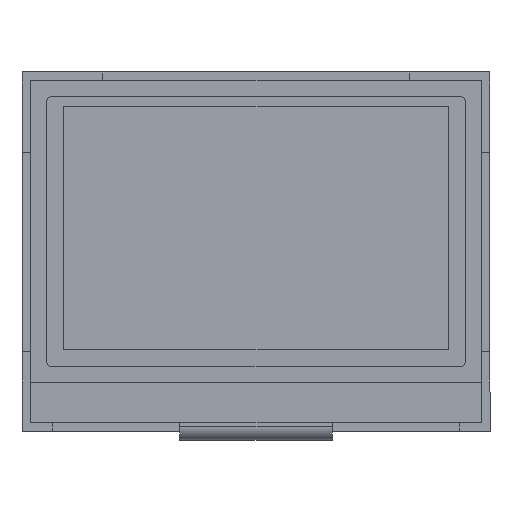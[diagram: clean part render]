
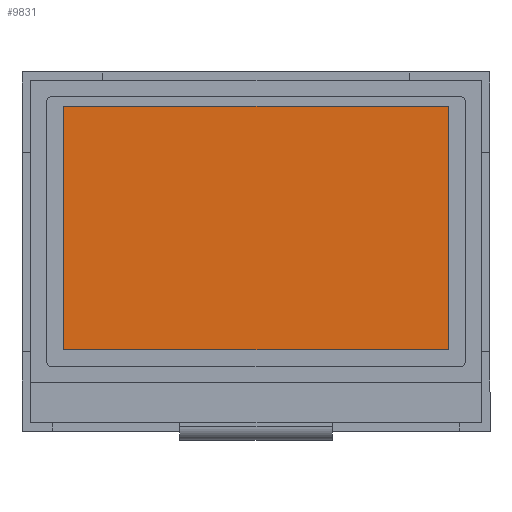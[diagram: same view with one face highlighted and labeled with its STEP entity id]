
A CAD part, top view. The second image highlights one B-rep face of the part: STEP entity #9831.
In plain terms, the highlighted planar face has unit normal (0, 0, 1).
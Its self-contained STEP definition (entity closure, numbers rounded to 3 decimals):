
#1709 = VERTEX_POINT ( 'NONE', #42082 ) ;
#3826 = ORIENTED_EDGE ( 'NONE', *, *, #83529, .F. ) ;
#9831 = ADVANCED_FACE ( 'NONE', ( #26886 ), #32574, .T. ) ;
#15062 = AXIS2_PLACEMENT_3D ( 'NONE', #76518, #68948, #61379 ) ;
#17717 = DIRECTION ( 'NONE',  ( 0., -1., 0. ) ) ;
#19580 = EDGE_CURVE ( 'NONE', #85081, #1709, #76768, .T. ) ;
#26821 = CARTESIAN_POINT ( 'NONE',  ( 23.88, -15.145, 1.9 ) ) ;
#26886 = FACE_OUTER_BOUND ( 'NONE', #30857, .T. ) ;
#26895 = CARTESIAN_POINT ( 'NONE',  ( -23.88, -15.145, 1.9 ) ) ;
#30539 = LINE ( 'NONE', #81096, #69254 ) ;
#30857 = EDGE_LOOP ( 'NONE', ( #3826, #37723, #47821, #65262 ) ) ;
#32574 = PLANE ( 'NONE',  #15062 ) ;
#37723 = ORIENTED_EDGE ( 'NONE', *, *, #58517, .F. ) ;
#41692 = LINE ( 'NONE', #71381, #64731 ) ;
#42082 = CARTESIAN_POINT ( 'NONE',  ( 23.88, 15.145, 1.9 ) ) ;
#47821 = ORIENTED_EDGE ( 'NONE', *, *, #78733, .F. ) ;
#51894 = CARTESIAN_POINT ( 'NONE',  ( -23.88, 15.145, 1.9 ) ) ;
#58427 = DIRECTION ( 'NONE',  ( 0., 1., 0. ) ) ;
#58517 = EDGE_CURVE ( 'NONE', #88044, #79181, #41692, .T. ) ;
#61379 = DIRECTION ( 'NONE',  ( 1., 0., 0. ) ) ;
#61641 = CARTESIAN_POINT ( 'NONE',  ( 0., 15.145, 1.9 ) ) ;
#62040 = VECTOR ( 'NONE', #17717, 1000. ) ;
#64731 = VECTOR ( 'NONE', #70469, 1000. ) ;
#65262 = ORIENTED_EDGE ( 'NONE', *, *, #19580, .F. ) ;
#68948 = DIRECTION ( 'NONE',  ( 0., 0., 1. ) ) ;
#69225 = CARTESIAN_POINT ( 'NONE',  ( 23.88, 0., 1.9 ) ) ;
#69254 = VECTOR ( 'NONE', #58427, 1000. ) ;
#70469 = DIRECTION ( 'NONE',  ( -1., 0., 0. ) ) ;
#71381 = CARTESIAN_POINT ( 'NONE',  ( 0., -15.145, 1.9 ) ) ;
#73708 = VECTOR ( 'NONE', #75830, 1000. ) ;
#75830 = DIRECTION ( 'NONE',  ( 1., 0., 0. ) ) ;
#76518 = CARTESIAN_POINT ( 'NONE',  ( 0., 0., 1.9 ) ) ;
#76768 = LINE ( 'NONE', #61641, #73708 ) ;
#78733 = EDGE_CURVE ( 'NONE', #1709, #88044, #90003, .T. ) ;
#79181 = VERTEX_POINT ( 'NONE', #26895 ) ;
#81096 = CARTESIAN_POINT ( 'NONE',  ( -23.88, 0., 1.9 ) ) ;
#83529 = EDGE_CURVE ( 'NONE', #79181, #85081, #30539, .T. ) ;
#85081 = VERTEX_POINT ( 'NONE', #51894 ) ;
#88044 = VERTEX_POINT ( 'NONE', #26821 ) ;
#90003 = LINE ( 'NONE', #69225, #62040 ) ;
